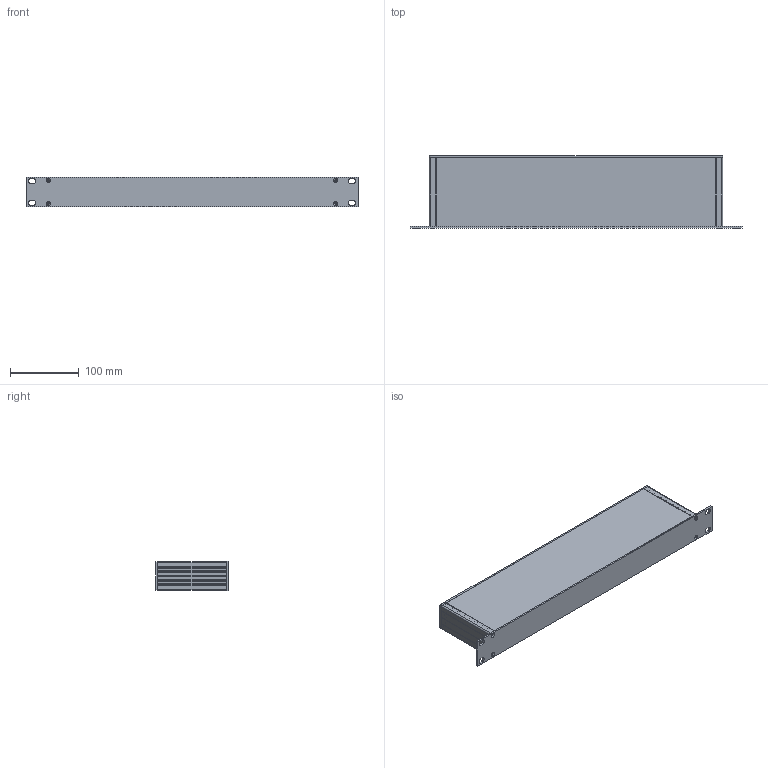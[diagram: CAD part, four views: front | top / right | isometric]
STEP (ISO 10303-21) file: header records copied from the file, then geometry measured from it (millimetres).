
FILE_DESCRIPTION(/* description */ (''),/* implementation_level */ '2;1');
FILE_NAME(/* name */ '//diskstation/Kunden/Gehäuse/Gehäuse/1HE/step/100.step',/* time_stamp */ '2022-02-17T15:27:36+01:00',/* author */ (''),/* organization */ (''),/* preprocessor_version */ 'ST-DEVELOPER v18.1',/* originating_system */ 'Autodesk Translation Framework v10.10.0.1391',/* authorisation */ '');
FILE_SCHEMA (('AUTOMOTIVE_DESIGN { 1 0 10303 214 3 1 1 }'));
Length unit declared in the file: millimetre
Products named in the file (7): 1HE Gehäuse mit Parameter (Seitenteilprofil); Frontplatte; Gehäuse; Seitenteilprofil; Rückplatte; Deckel; Bodenplatte
Assembly tree (7 placements, depth 3):
  1HE Gehäuse mit Parameter (Seitenteilprofil)
    Frontplatte
    Gehäuse
      Seitenteilprofil  x2
      Rückplatte
      Deckel
      Bodenplatte
Bounding box: 483 x 105 x 43.6 mm (x, y, z)
Volume: 334967.7 mm3; surface area: 288658.7 mm2
Topology: 6 solids, 6 shells, 252 faces, 712 edges, 472 vertices
Faces by surface type: plane 158, cylinder 86, cone 8
Full cylindrical faces by diameter (mm): 3 x4, 3.2 x8
Entity records: 5633 total; most frequent: CARTESIAN_POINT 956, DIRECTION 952, ORIENTED_EDGE 932, EDGE_CURVE 466, LINE 344, VECTOR 344, VERTEX_POINT 308, AXIS2_PLACEMENT_3D 304
